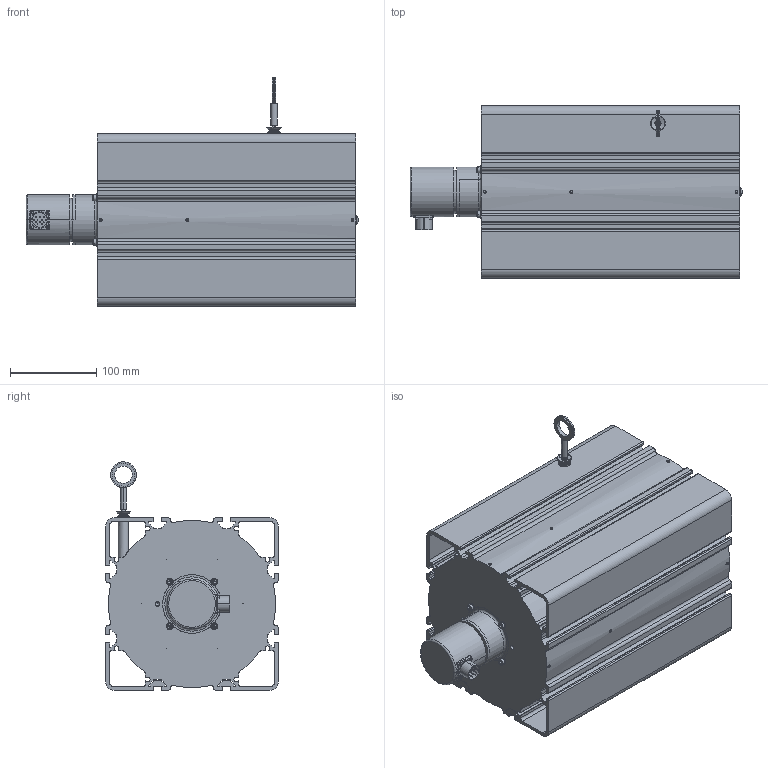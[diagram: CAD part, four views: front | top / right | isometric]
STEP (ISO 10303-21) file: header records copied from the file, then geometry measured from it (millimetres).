
FILE_DESCRIPTION((''),'2;1');
FILE_NAME('','2007-05-29T',(''),(''),'PRO/ENGINEER BY PARAMETRIC TECHNOLOGY CORPORATION, 2003250','PRO/ENGINEER BY PARAMETRIC TECHNOLOGY CORPORATION, 2003250','');
FILE_SCHEMA(('CONFIG_CONTROL_DESIGN'));
Length unit declared in the file: millimetre
Bounding box: 385.17 x 200 x 264.95 mm (x, y, z)
Volume: 2203747.3 mm3; surface area: 867995 mm2
Topology: 1 solids, 6 shells, 919 faces, 2426 edges, 1572 vertices
Faces by surface type: cylinder 434, plane 331, cone 102, torus 46, bspline 4, sphere 2
Entity records: 30021 total; most frequent: CARTESIAN_POINT 6640, DIRECTION 5114, ORIENTED_EDGE 4784, EDGE_CURVE 2392, AXIS2_PLACEMENT_3D 1985, VERTEX_POINT 1572, VECTOR 1144, LINE 1144
